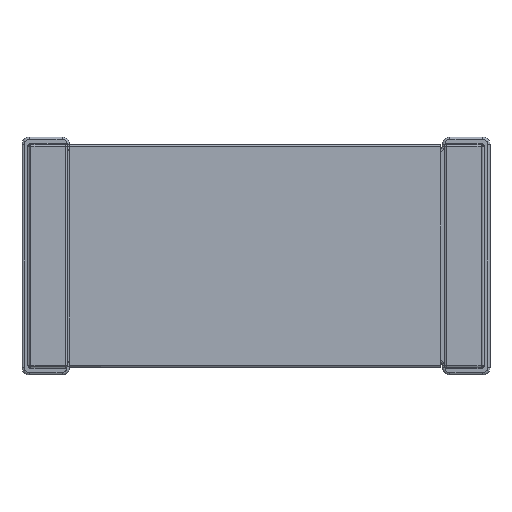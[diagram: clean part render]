
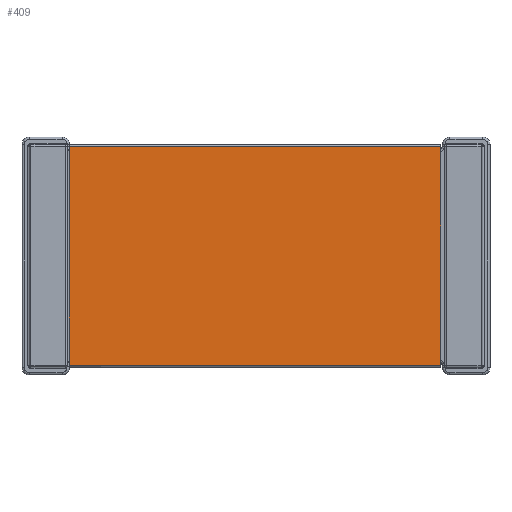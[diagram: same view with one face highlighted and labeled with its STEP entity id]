
A CAD part, top view. The second image highlights one B-rep face of the part: STEP entity #409.
In plain terms, the highlighted planar face has unit normal (0, 0, 1).
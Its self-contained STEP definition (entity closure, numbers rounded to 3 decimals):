
#409=ADVANCED_FACE('',(#2124),#2126,.T.);
#2124=FACE_BOUND('',#2125,.T.);
#2125=EDGE_LOOP('',(#3631,#3632,#3633,#3634));
#2126=PLANE('',#2127);
#2127=AXIS2_PLACEMENT_3D('',#2128,#2129,#2130);
#2128=CARTESIAN_POINT('',(-2.51,1.5,0.27));
#2129=DIRECTION('',(0.,0.,1.));
#2130=DIRECTION('',(0.,-1.,0.));
#3631=ORIENTED_EDGE('',*,*,#4473,.F.);
#3632=ORIENTED_EDGE('',*,*,#4387,.T.);
#3633=ORIENTED_EDGE('',*,*,#4474,.T.);
#3634=ORIENTED_EDGE('',*,*,#4370,.F.);
#4370=EDGE_CURVE('',#4882,#4885,#4886,.T.);
#4387=EDGE_CURVE('',#4914,#4912,#4915,.T.);
#4473=EDGE_CURVE('',#4914,#4882,#5062,.T.);
#4474=EDGE_CURVE('',#4912,#4885,#5063,.T.);
#4882=VERTEX_POINT('',#5824);
#4885=VERTEX_POINT('',#5830);
#4886=LINE('',#5831,#5832);
#4912=VERTEX_POINT('',#5899);
#4914=VERTEX_POINT('',#5904);
#4915=LINE('',#5905,#5906);
#5062=LINE('',#6283,#6284);
#5063=LINE('',#6286,#6287);
#5824=CARTESIAN_POINT('',(2.49,1.468,0.27));
#5830=CARTESIAN_POINT('',(2.489,-1.47,0.27));
#5831=CARTESIAN_POINT('',(2.49,1.468,0.27));
#5832=VECTOR('',#5833,1.);
#5833=DIRECTION('',(0.,-1.,0.));
#5899=CARTESIAN_POINT('',(-2.511,-1.468,0.27));
#5904=CARTESIAN_POINT('',(-2.51,1.47,0.27));
#5905=CARTESIAN_POINT('',(-2.51,1.47,0.27));
#5906=VECTOR('',#5907,1.);
#5907=DIRECTION('',(0.,-1.,0.));
#6283=CARTESIAN_POINT('',(-2.51,1.47,0.27));
#6284=VECTOR('',#6285,1.);
#6285=DIRECTION('',(1.,0.,0.));
#6286=CARTESIAN_POINT('',(-2.511,-1.468,0.27));
#6287=VECTOR('',#6288,1.);
#6288=DIRECTION('',(1.,0.,0.));
